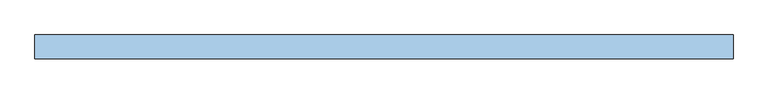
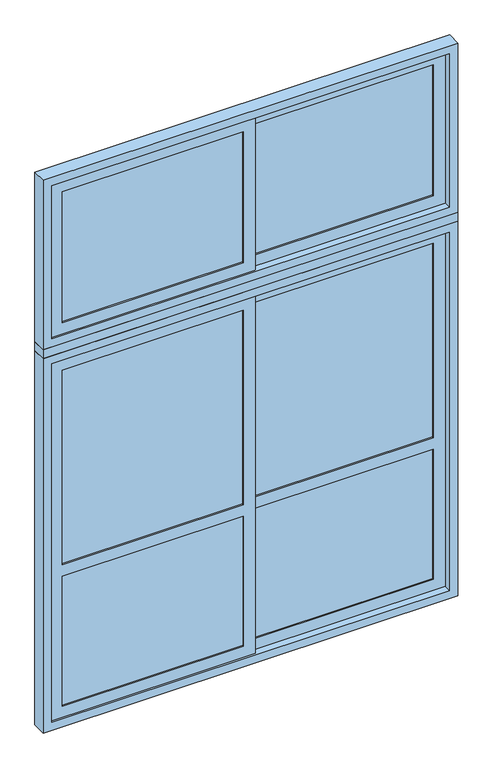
"""IFC4 building model written with IfcOpenShell, lengths in millimetres: window geometry, A7 Ventana_Corrediza_PC_2 hojas : A7.4 Ventana_Corrediza_PC_2 hojas 220x310."""

from ifc_helpers import new_model, si_unit, frame, origin, place, context, project, spatial, polyline, outline, extrude, source, transform, mapped, element, save


def window_442d5369(model_context):
    return source(origin(), model_context, "Body", "SweptSolid", [
        extrude(outline(polyline([(-31.5, 28.0), (-992.0, 28.0), (-992.0, 44.0), (-31.5, 44.0), (-31.5, 28.0)])), frame((0.0, 0.0, 108.0), z_axis=(0.0, 0.0, 1.0), x_axis=(1.0, 0.0, 0.0)), (0.0, 0.0, 1.0), 728.0),
        extrude(outline(polyline([(992.0, 56.0), (31.5, 56.0), (31.5, 72.0), (992.0, 72.0), (992.0, 56.0)])), frame((0.0, 0.0, 108.0), z_axis=(0.0, 0.0, 1.0), x_axis=(1.0, 0.0, 0.0)), (0.0, 0.0, 1.0), 728.0),
        extrude(outline(polyline([(-31.5, 31.5769719), (-992.0, 31.5769719), (-992.0, 40.4230281), (-31.5, 40.4230281), (-31.5, 31.5769719)])), frame((0.0, 0.0, 2258.0), z_axis=(0.0, 0.0, 1.0), x_axis=(1.0, 0.0, 0.0)), (0.0, 0.0, 1.0), 734.0),
        extrude(outline(polyline([(-31.5, 31.5769719), (-992.0, 31.5769719), (-992.0, 40.4230281), (-31.5, 40.4230281), (-31.5, 31.5769719)])), frame((0.0, 0.0, 900.0), z_axis=(0.0, 0.0, 1.0), x_axis=(1.0, 0.0, 0.0)), (0.0, 0.0, 1.0), 1092.0),
        extrude(outline(polyline([(992.0, 59.5769719), (31.5, 59.5769719), (31.5, 68.4230281), (992.0, 68.4230281), (992.0, 59.5769719)])), frame((0.0, 0.0, 2258.0), z_axis=(0.0, 0.0, 1.0), x_axis=(1.0, 0.0, 0.0)), (0.0, 0.0, 1.0), 734.0),
        extrude(outline(polyline([(992.0, 59.5769719), (31.5, 59.5769719), (31.5, 68.4230281), (992.0, 68.4230281), (992.0, 59.5769719)])), frame((0.0, 0.0, 900.0), z_axis=(0.0, 0.0, 1.0), x_axis=(1.0, 0.0, 0.0)), (0.0, 0.0, 1.0), 1092.0),
        extrude(outline(polyline([(45.0, -1055.0), (45.0, 31.5), (2055.0, 31.5), (2055.0, -1055.0), (45.0, -1055.0)]), holes=[polyline([(900.0, -992.0), (1992.0, -992.0), (1992.0, -31.5), (900.0, -31.5), (900.0, -992.0)]), polyline([(108.0, -992.0), (836.0, -992.0), (836.0, -31.5), (108.0, -31.5), (108.0, -992.0)])]), frame((0.0, 22.0, 0.0), z_axis=(0.0, 1.0, 0.0), x_axis=(0.0, 0.0, 1.0)), (0.0, 0.0, 1.0), 28.0),
        extrude(outline(polyline([(3055.0, -1055.0), (2195.0, -1055.0), (2195.0, 31.5), (3055.0, 31.5), (3055.0, -1055.0)]), holes=[polyline([(2258.0, -992.0), (2992.0, -992.0), (2992.0, -31.5), (2258.0, -31.5), (2258.0, -992.0)])]), frame((0.0, 22.0, 0.0), z_axis=(0.0, 1.0, 0.0), x_axis=(0.0, 0.0, 1.0)), (0.0, 0.0, 1.0), 28.0),
        extrude(outline(polyline([(2055.0, 1055.0), (2055.0, -31.5), (45.0, -31.5), (45.0, 1055.0), (2055.0, 1055.0)]), holes=[polyline([(1992.0, 31.5), (1992.0, 992.0), (900.0, 992.0), (900.0, 31.5), (1992.0, 31.5)]), polyline([(836.0, 31.5), (836.0, 992.0), (108.0, 992.0), (108.0, 31.5), (836.0, 31.5)])]), frame((0.0, 50.0, 0.0), z_axis=(0.0, 1.0, 0.0), x_axis=(0.0, 0.0, 1.0)), (0.0, 0.0, 1.0), 28.0),
        extrude(outline(polyline([(2195.0, -31.5), (2195.0, 1055.0), (3055.0, 1055.0), (3055.0, -31.5), (2195.0, -31.5)]), holes=[polyline([(2992.0, 31.5), (2992.0, 992.0), (2258.0, 992.0), (2258.0, 31.5), (2992.0, 31.5)])]), frame((0.0, 50.0, 0.0), z_axis=(0.0, 1.0, 0.0), x_axis=(0.0, 0.0, 1.0)), (0.0, 0.0, 1.0), 28.0),
        extrude(outline(polyline([(2100.0, -1100.0), (0.0, -1100.0), (0.0, 1100.0), (2100.0, 1100.0), (2100.0, -1100.0)]), holes=[polyline([(2055.0, -1055.0), (2055.0, 1055.0), (45.0, 1055.0), (45.0, -1055.0), (2055.0, -1055.0)])]), frame((0.0, 12.5, 0.0), z_axis=(0.0, 1.0, 0.0), x_axis=(0.0, 0.0, 1.0)), (0.0, 0.0, 1.0), 75.0),
        extrude(outline(polyline([(3100.0, -1100.0), (2150.0, -1100.0), (2150.0, 1100.0), (3100.0, 1100.0), (3100.0, -1100.0)]), holes=[polyline([(3055.0, -1055.0), (3055.0, 1055.0), (2195.0, 1055.0), (2195.0, -1055.0), (3055.0, -1055.0)])]), frame((0.0, 12.5, 0.0), z_axis=(0.0, 1.0, 0.0), x_axis=(0.0, 0.0, 1.0)), (0.0, 0.0, 1.0), 75.0),
        extrude(outline(polyline([(1100.0, 12.5), (-1100.0, 12.5), (-1100.0, 87.5), (1100.0, 87.5), (1100.0, 12.5)])), frame((0.0, 0.0, 2100.0), z_axis=(0.0, 0.0, 1.0), x_axis=(1.0, 0.0, 0.0)), (0.0, 0.0, 1.0), 50.0),
    ])


if __name__ == "__main__":
    model = new_model("IFC4")
    model_context = context("Model", 3, world=origin())
    ifc_project = project(units=[si_unit("LENGTHUNIT", "METRE", prefix="MILLI")], contexts=[model_context])
    site = spatial("IfcSite", under=ifc_project)
    building = spatial("IfcBuilding", under=site)
    placement = place(None, origin())
    window_shape = window_442d5369(model_context)
    element("IfcWindow", 1, ObjectType="A7 Ventana_Corrediza_PC_2 hojas : A7.4 Ventana_Corrediza_PC_2 hojas 220x310", at=placement, inside=building, context=model_context, shape_type="MappedRepresentation", body=[
        mapped(window_shape, transform((0.0, 0.0, 0.0), x_axis=(1.0, 0.0, 0.0), y_axis=(0.0, 1.0, 0.0), z_axis=(0.0, 0.0, 1.0))),
    ])
    save(model, "model.ifc")
